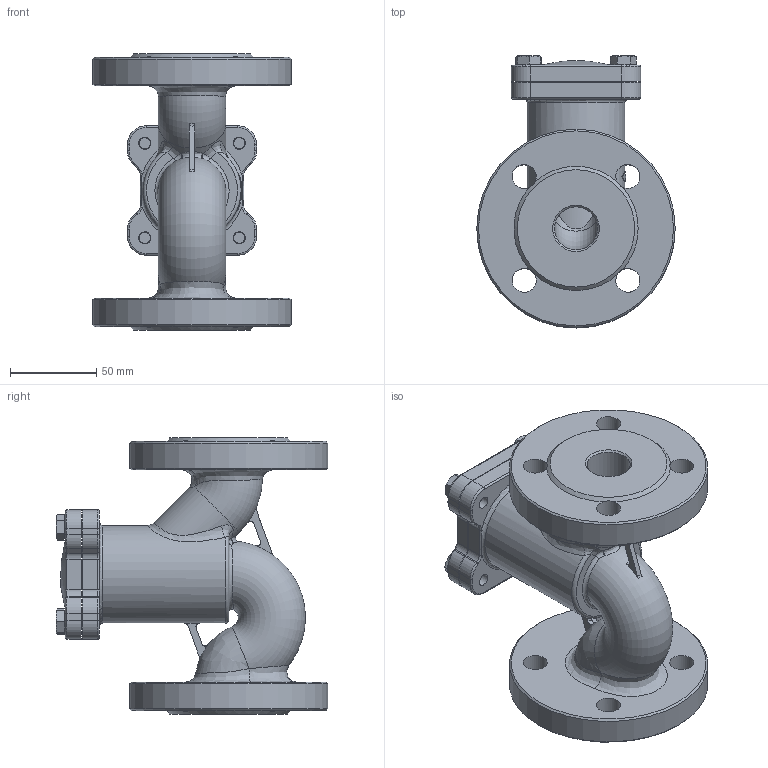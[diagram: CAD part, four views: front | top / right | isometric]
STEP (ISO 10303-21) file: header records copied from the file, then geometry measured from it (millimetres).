
FILE_DESCRIPTION(('STEP AP214'), '1');
FILE_NAME('VCR3131-F 孰囡囗 钺疣蝽 DN.ru 捏25 畜40', '2026-02-21T07:53:11', ('R2D2'), (''), 'C3D Converter', 'C3D Toolkit', '');
FILE_SCHEMA(('AUTOMOTIVE_DESIGN { 1 0 10303 214 3 1 1}'));
Length unit declared in the file: millimetre
Products named in the file (1): VCR3131-F
Bounding box: 115 x 157.5 x 160 mm (x, y, z)
Volume: 705664 mm3; surface area: 119207.7 mm2
Topology: 1 solids, 1 shells, 362 faces, 909 edges, 567 vertices
Faces by surface type: plane 143, cylinder 90, bspline 53, torus 39, cone 36, sphere 1
Full cylindrical faces by diameter (mm): 7 x4, 8 x4, 13 x4, 14 x8, 15 x1, 25 x3, 39 x1, 56.686 x1, 115 x2
Entity records: 22781 total; most frequent: CARTESIAN_POINT 11548, ORIENTED_EDGE 1724, DIRECTION 1622, EDGE_CURVE 862, AXIS2_PLACEMENT_3D 662, VERTEX_POINT 565, EDGE_LOOP 453, FACE_BOUND 410
